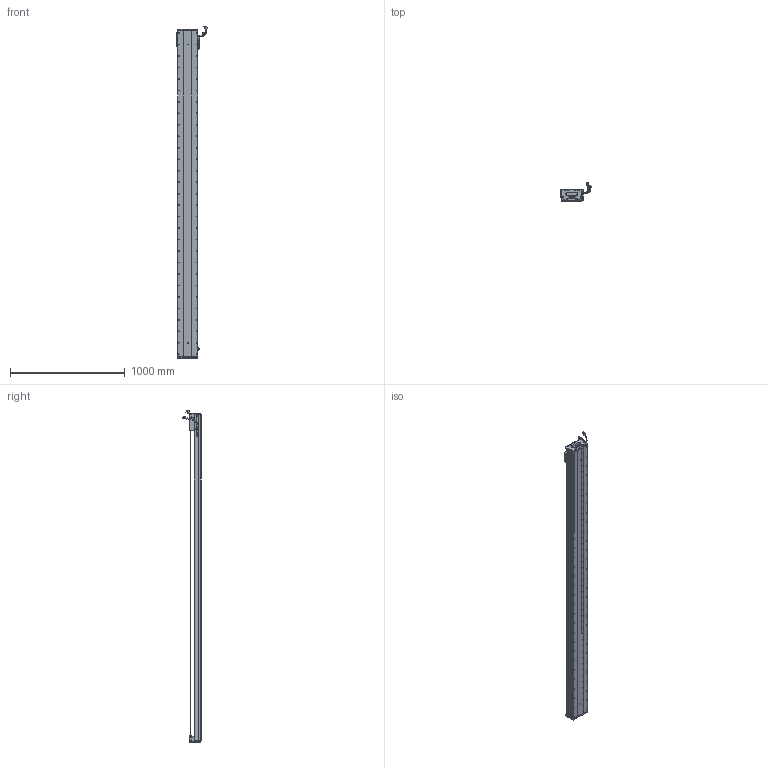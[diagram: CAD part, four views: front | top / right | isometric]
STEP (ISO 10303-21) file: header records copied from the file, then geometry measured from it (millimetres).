
FILE_DESCRIPTION (( 'STEP AP203' ), '1' );
FILE_NAME ('Z1-RY170D-1-L500-B-K.SLDASM_2650.step', '2021-05-17T08:56:22', ( '盈信电脑' ), ( '东莞市道滘镇水果街19号' ), 'SwSTEP 2.0', 'SolidWorks 2016', '' );
FILE_SCHEMA (( 'CONFIG_CONTROL_DESIGN' ));
Length unit declared in the file: millimetre
Products named in the file (36): Z-RY170詩湍狟揤裔; SCALE; LABEL-Part-1; HOLDER0; 覜茼ん672; SEAL-Part-1; COVER-Part-1; 140雄赽晤鎢ん堤盄; COVER; SCREW-M1.7; Z-RY170詩湍奻揤裔; Z1-RY170-L500詩湍145mm遵_2650; SCREW-M1.7-1; SCALE-Part-2; 170-Z-臏賑輸盄裔(21遴); Z1-RY170-L500耀郪菁釱_2650; SHIELDPLATE; HARNESS-Part-1; LABEL; 080黍杅芛假蚾釱21遴; 榋妏寠巭燃_暯_M2_2; PBU_SHEET; SEAL; SCALE-Part-1; SCREW-M1.6-3; SCREW-M1.6; Z-170詩湍傷裔啣; SCREW-M1.6-1; Z1-RY170D-1-L500-B-K.SLDASM_2650; RY170直线电机感应器672光电感应片; SCREW-M1.6-2; PSLH080_PSLF2; 140蚥薯蝶輸; HARNESS-Part-2; Z1-RY170臏賑輸(21遴); HARNESS
Assembly tree (41 placements, depth 4):
  Z1-RY170D-1-L500-B-K.SLDASM_2650
    Z1-RY170-L500耀郪菁釱_2650
    RY170直线电机感应器672光电感应片
    Z1-RY170臏賑輸(21遴)
    覜茼ん672  x3
    PSLH080_PSLF2
      SCALE
        SCALE-Part-1
        SCALE-Part-2
      HARNESS
        HARNESS-Part-1
        HARNESS-Part-2
      LABEL
        LABEL-Part-1
      COVER
        COVER-Part-1
      SEAL
        SEAL-Part-1
      榋妏寠巭燃_暯_M2_2
      SHIELDPLATE
      SCREW-M1.7
      SCREW-M1.7-1
      PBU_SHEET
      SCREW-M1.6
      SCREW-M1.6-1
      SCREW-M1.6-2
      SCREW-M1.6-3
      HOLDER0
    080黍杅芛假蚾釱21遴
    Z1-RY170-L500詩湍145mm遵_2650
    Z-170詩湍傷裔啣  x2
    Z-RY170詩湍奻揤裔  x2
    Z-RY170詩湍狟揤裔  x2
    140蚥薯蝶輸  x2
    170-Z-臏賑輸盄裔(21遴)
    140雄赽晤鎢ん堤盄
Bounding box: 275.29 x 158.11 x 2893.72 mm (x, y, z)
Volume: 13723353.1 mm3; surface area: 3436795.2 mm2
Topology: 36 solids, 36 shells, 4170 faces, 11661 edges, 7287 vertices
Faces by surface type: cylinder 2136, plane 1328, cone 584, torus 69, bspline 53
Entity records: 133169 total; most frequent: CARTESIAN_POINT 38152, ORIENTED_EDGE 19726, DIRECTION 18087, EDGE_CURVE 9863, AXIS2_PLACEMENT_3D 6652, VERTEX_POINT 6405, LINE 4783, VECTOR 4783
